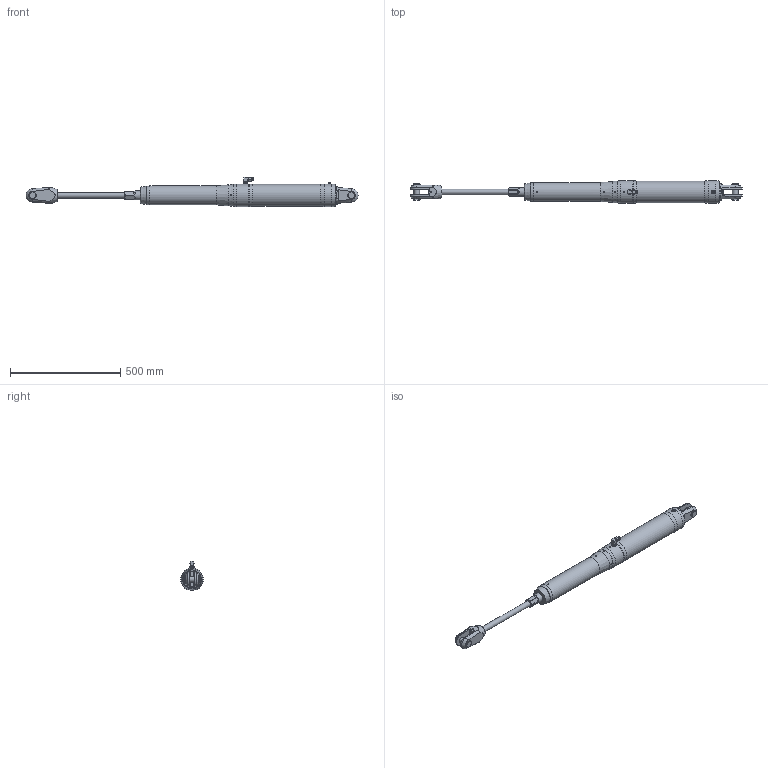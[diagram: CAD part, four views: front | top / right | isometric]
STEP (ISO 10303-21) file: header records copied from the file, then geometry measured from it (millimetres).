
FILE_DESCRIPTION(/* description */ (''),/* implementation_level */ '2;1');
FILE_NAME(/* name */ 'Q:\AA BRAND HYDRAULICS\HYDRAULICS FAMILY DIRECTORY\HYDRAULICS\CYLINDERS\MECHANICAL LOCK RAMS\ALUMINIUM - STAINLESS SINGLE ACTING (-0012 To -0150)\MSA-0040-S0300-NP-71\MSA-0040-S0300-NP-71 (Open).stp',/* time_stamp */ '2018-04-25T16:11:33+01:00',/* author */ ('Lorena'),/* organization */ (''),/* preprocessor_version */ 'ST-DEVELOPER v17',/* originating_system */ 'Autodesk Inventor 2018',/* authorisation */ '');
FILE_SCHEMA (('AUTOMOTIVE_DESIGN { 1 0 10303 214 3 1 1 }'));
Length unit declared in the file: millimetre
Products named in the file (1): MSA-0040-S0300-NP-71 (Open)
Bounding box: 1507.19 x 102.2 x 133 mm (x, y, z)
Volume: 7029219.6 mm3; surface area: 392646.3 mm2
Topology: 2 solids, 6 shells, 502 faces, 1296 edges, 843 vertices
Faces by surface type: plane 283, cone 124, cylinder 81, torus 6, sphere 4, bspline 4
Full cylindrical faces by diameter (mm): 4 x1, 4.134 x1, 4.2 x2, 5 x7, 5.1 x1, 5.9 x1, 7 x1, 9 x1, 10 x2, 11.157 x1, 11.5 x1, 11.8 x1, 12 x1, 12.157 x1, 12.77 x1, 13 x1, 13.157 x2, 14.5 x2, 16 x2, 18.3 x3, 22 x1, 25.4 x2, 25.5 x1, 31.75 x2, 40 x2, 41 x2, 44 x1, 86 x1, 99.2 x1, 102.2 x4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
Entity records: 16748 total; most frequent: CARTESIAN_POINT 4115, ORIENTED_EDGE 2576, DIRECTION 2526, EDGE_CURVE 1288, AXIS2_PLACEMENT_3D 973, VERTEX_POINT 844, LINE 580, VECTOR 580
